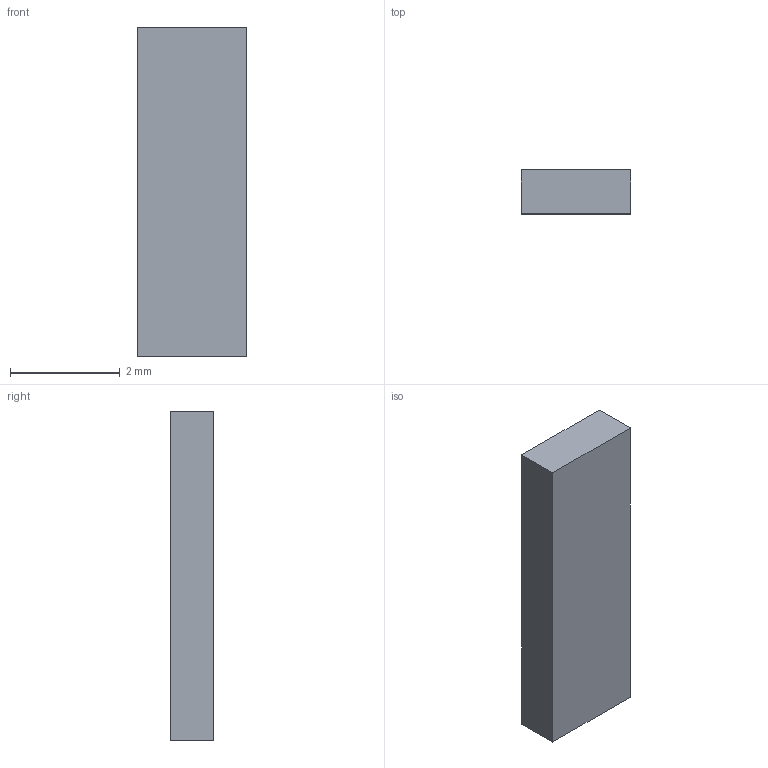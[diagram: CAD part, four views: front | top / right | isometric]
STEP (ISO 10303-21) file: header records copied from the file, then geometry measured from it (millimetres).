
FILE_DESCRIPTION(('Open CASCADE Model'),'2;1');
FILE_NAME('pcb_clamp_pad_silicone_1_0to0_8_2','2026-09-08T13:43:18',( 'Author'),('Open CASCADE'),'Open CASCADE STEP processor 7.8', 'build123d','Unknown');
FILE_SCHEMA(('AUTOMOTIVE_DESIGN { 1 0 10303 214 1 1 1 1 }'));
Length unit declared in the file: millimetre
Products named in the file (3): =>[0:1:1:2]; pcb_clamp_pad_silicone_1_0to0_8_2; SOLID
Assembly tree (2 placements, depth 3):
  =>[0:1:1:2]
    pcb_clamp_pad_silicone_1_0to0_8_2
      SOLID
Bounding box: 2 x 0.8 x 6 mm (x, y, z)
Volume: 9.6 mm3; surface area: 36.8 mm2
Topology: 1 solids, 1 shells, 6 faces, 12 edges, 8 vertices
Faces by surface type: plane 6
Entity records: 358 total; most frequent: DIRECTION 54, CARTESIAN_POINT 53, LINE 36, VECTOR 36, ORIENTED_EDGE 24, PCURVE 24, DEFINITIONAL_REPRESENTATION 24, EDGE_CURVE 12
